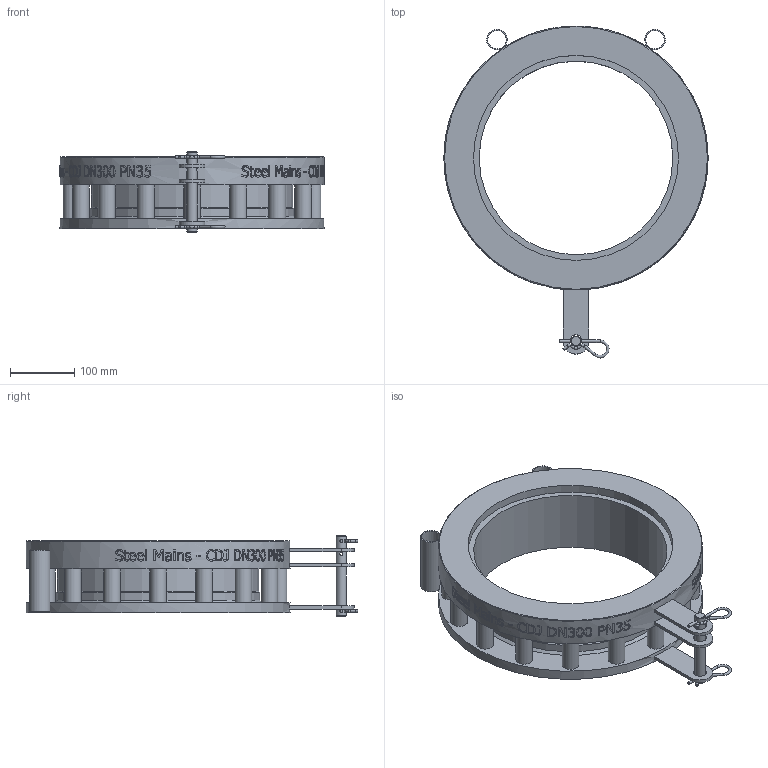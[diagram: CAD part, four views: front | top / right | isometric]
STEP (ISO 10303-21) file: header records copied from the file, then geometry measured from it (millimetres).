
FILE_DESCRIPTION(/* description */ (''),/* implementation_level */ '2;1');
FILE_NAME(/* name */ 'C:\Vault\Designs\Somerton\196\196-32 Models\Marketing Files\SteelMains - CDJ DN300 PN35 - (196-32T rev B).stp',/* time_stamp */ '2025-09-25T16:27:01+10:00',/* author */ ('Sam.Cavallaro'),/* organization */ (''),/* preprocessor_version */ 'ST-DEVELOPER v18.1',/* originating_system */ 'Autodesk Inventor 2021',/* authorisation */ '');
FILE_SCHEMA (('AUTOMOTIVE_DESIGN { 1 0 10303 214 3 1 1 }'));
Length unit declared in the file: millimetre
Products named in the file (1): SPS_ENG-084779
Bounding box: 412 x 517.97 x 125 mm (x, y, z)
Volume: 4457847 mm3; surface area: 592151.3 mm2
Topology: 6 solids, 6 shells, 859 faces, 2347 edges, 1566 vertices
Faces by surface type: bspline 426, plane 309, cylinder 111, torus 8, cone 5
Full cylindrical faces by diameter (mm): 4 x10, 5 x3, 16 x1, 20 x3, 26 x16, 28.8 x2, 32 x2, 302 x1, 314 x1, 318 x1, 320 x1, 412 x1
Entity records: 38400 total; most frequent: CARTESIAN_POINT 18866, ORIENTED_EDGE 4700, DIRECTION 2747, EDGE_CURVE 2350, VERTEX_POINT 1569, LINE 1077, VECTOR 1077, EDGE_LOOP 975
